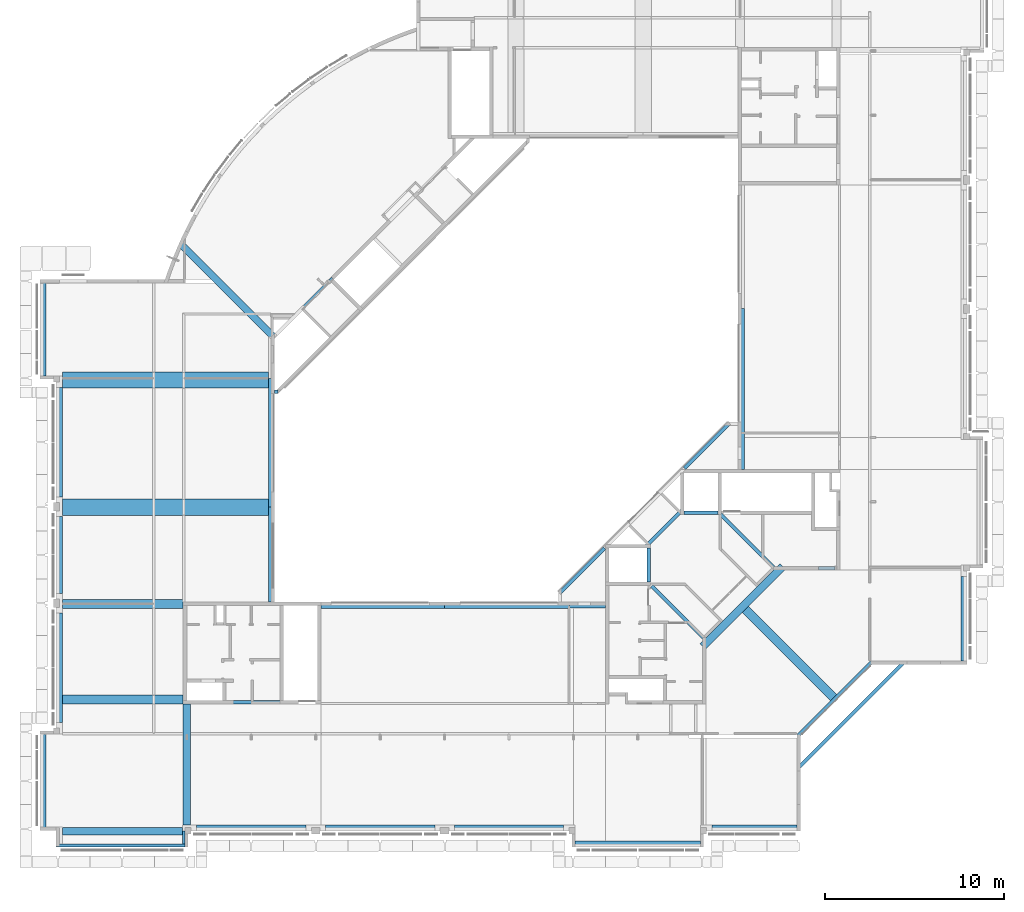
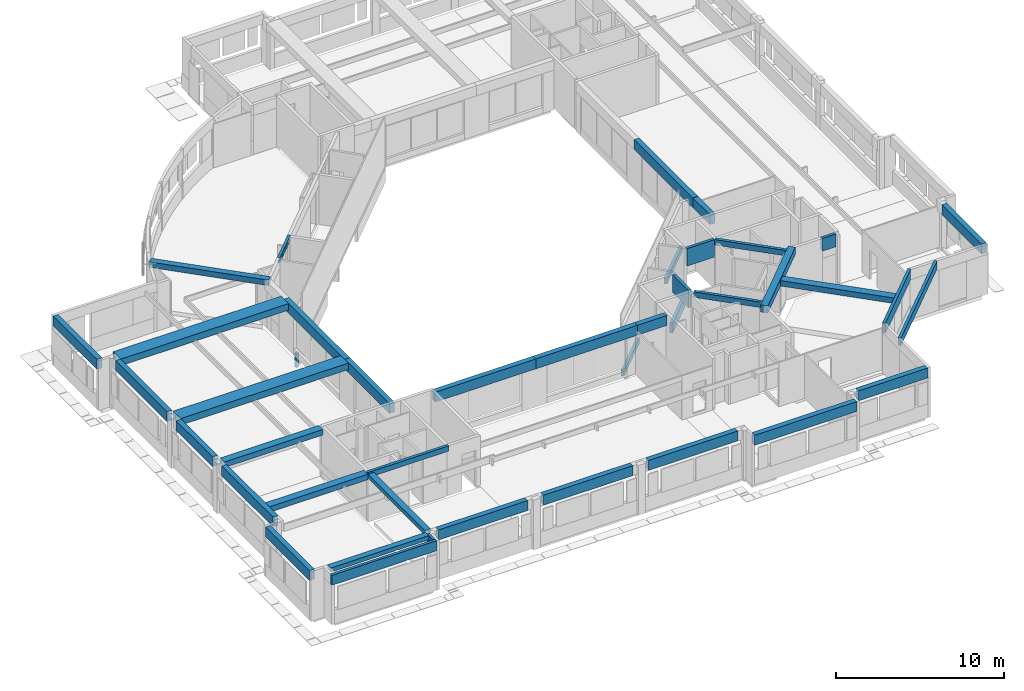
# One storey, part 2 of 26: 42 beams, 1 element without a shape of its own.
"""IFC4X3_ADD2 building model written with IfcOpenShell, lengths in millimetres."""

from ifc_helpers import new_model, si_unit, direction, frame, frame_2d, origin_with_axes, origin_2d_with_axis, place, context, subcontext, project, spatial, polyline, rectangle, outline, extrude, source, transform, mapped, material, type_object, type_shapes, element, aggregate, save


model = new_model("IFC4X3_ADD2")

# Units and contexts
model_context = context("Model", 3, precision=1e-05, world=origin_with_axes(), true_north=direction((0.0, 1.0)))
body_context = subcontext(model_context, "Body", "Model", "MODEL_VIEW")
ifc_project = project(units=[si_unit("LENGTHUNIT", "METRE", prefix="MILLI"), si_unit("AREAUNIT", "SQUARE_METRE"), si_unit("VOLUMEUNIT", "CUBIC_METRE"), si_unit("PLANEANGLEUNIT", "RADIAN"), si_unit("TIMEUNIT", "SECOND"), si_unit("MASSUNIT", "GRAM")], contexts=[model_context])

# Site, building, storey
site_placement = place(None, origin_with_axes())
site = spatial("IfcSite", under=ifc_project, at=site_placement, Name="Site", CompositionType="ELEMENT")
building_placement = place(site_placement, origin_with_axes())
building = spatial("IfcBuilding", under=site, at=building_placement, Name="IFC Building Story")
storey_placement = place(building_placement, frame((0.0, 0.0, 7200.0), z_axis=(0.0, 0.0, 1.0), x_axis=(1.0, 0.0, 0.0)))
storey = spatial("IfcBuildingStorey", under=building, at=storey_placement, Name="020", Elevation=7200.0)

# Beams
ifc_material_1 = material(Name="BB_Beton_Bestaand")
beam_type_1 = type_object("IfcBeamType", Name="BB_XX_Betonbalk_ rechthoekig_ center-center_SFB_340 x 720 mm33", PredefinedType="NOTDEFINED")
shared_shape_1 = source(origin_with_axes(), body_context, "Body", "SweptSolid", [
    extrude(rectangle(XDim=5299.99593411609, YDim=340.0, at=origin_2d_with_axis()), frame((-5.002220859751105e-12, 0.0, -360.0), z_axis=(0.0, 0.0, 1.0), x_axis=(1.0, 0.0, 0.0)), (0.0, 0.0, 1.0), 720.0),
])
type_shapes(beam_type_1, [shared_shape_1])
beam_1_placement = place(storey_placement, frame((-38775.0, 15350.0020329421, 3040.0), z_axis=(0.0, 0.0, 1.0), x_axis=(0.0, 1.0, 0.0)))
element("IfcBeam", 1, at=beam_1_placement, inside=storey, type_object=beam_type_1, material=ifc_material_1, Name="BB_XX_Betonbalk, rechthoekig, center-center_SFB:340 x 720 mm", ObjectType="340 x 720 mm", PredefinedType="BEAM", context=body_context, shape_type="MappedRepresentation", body=[
    mapped(shared_shape_1, transform((0.0, 0.0, 0.0))),
])
beam_type_2 = type_object("IfcBeamType", Name="BB_XX_Betonbalk_ rechthoekig_ center-center_SFB_340 x 720 mm35", PredefinedType="NOTDEFINED")
shared_shape_2 = source(origin_with_axes(), body_context, "Body", "SweptSolid", [
    extrude(rectangle(XDim=7200.0, YDim=340.0, at=origin_2d_with_axis()), frame((-5.002220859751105e-12, 0.0, -360.0), z_axis=(0.0, 0.0, 1.0), x_axis=(1.0, 0.0, 0.0)), (0.0, 0.0, 1.0), 720.0),
])
type_shapes(beam_type_2, [shared_shape_2])
beam_2_placement = place(storey_placement, frame((-38775.0, 21600.0, 3040.0), z_axis=(0.0, 0.0, 1.0), x_axis=(0.0, 1.0, 0.0)))
element("IfcBeam", 2, at=beam_2_placement, inside=storey, type_object=beam_type_2, material=ifc_material_1, Name="BB_XX_Betonbalk, rechthoekig, center-center_SFB:340 x 720 mm", ObjectType="340 x 720 mm", PredefinedType="BEAM", context=body_context, shape_type="MappedRepresentation", body=[
    mapped(shared_shape_2, transform((0.0, 0.0, 0.0))),
])
beam_type_3 = type_object("IfcBeamType", Name="BB_XX_Betonbalk_ rechthoekig_ center-center_SFB_340 x 720 mm55", PredefinedType="NOTDEFINED")
shared_shape_3 = source(origin_with_axes(), body_context, "Body", "SweptSolid", [
    extrude(rectangle(XDim=6900.00000000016, YDim=340.0, at=origin_2d_with_axis()), frame((-5.002220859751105e-12, 0.0, -360.0), z_axis=(0.0, 0.0, 1.0), x_axis=(1.0, 0.0, 0.0)), (0.0, 0.0, 1.0), 720.0),
])
type_shapes(beam_type_3, [shared_shape_3])
beam_3_placement = place(storey_placement, frame((-32550.0, 12525.004065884, 3040.0), z_axis=(0.0, 0.0, 1.0), x_axis=(1.0, 0.0, 0.0)))
element("IfcBeam", 3, at=beam_3_placement, inside=storey, type_object=beam_type_3, material=ifc_material_1, Name="BB_XX_Betonbalk, rechthoekig, center-center_SFB:340 x 720 mm", ObjectType="340 x 720 mm", PredefinedType="BEAM", context=body_context, shape_type="MappedRepresentation", body=[
    mapped(shared_shape_3, transform((0.0, 0.0, 0.0))),
])
beam_type_4 = type_object("IfcBeamType", Name="BB_XX_Betonbalk_ rechthoekig_ center-center_SFB_200 x 1270 mm3", PredefinedType="NOTDEFINED")
shared_shape_4 = source(origin_with_axes(), body_context, "Body", "SweptSolid", [
    extrude(rectangle(XDim=1900.0, YDim=200.0, at=origin_2d_with_axis()), frame((0.0, 0.0, -635.0), z_axis=(0.0, 0.0, 1.0), x_axis=(1.0, 0.0, 0.0)), (0.0, 0.0, 1.0), 1270.0),
])
type_shapes(beam_type_4, [shared_shape_4])
beam_4_placement = place(storey_placement, frame((-14765.0, 17700.0, 2885.0), z_axis=(0.0, 0.0, 1.0), x_axis=(-1.0, 0.0, 0.0)))
element("IfcBeam", 4, at=beam_4_placement, inside=storey, type_object=beam_type_4, material=ifc_material_1, Name="BB_XX_Betonbalk, rechthoekig, center-center_SFB:200 x 1270 mm", ObjectType="200 x 1270 mm", PredefinedType="BEAM", context=body_context, shape_type="MappedRepresentation", body=[
    mapped(shared_shape_4, transform((0.0, 0.0, 0.0))),
])
beam_type_5 = type_object("IfcBeamType", Name="BB_XX_Betonbalk_ rechthoekig_ center-center_SFB_200 x 1270 mm5", PredefinedType="NOTDEFINED")
shared_shape_5 = source(origin_with_axes(), body_context, "Body", "SweptSolid", [
    extrude(rectangle(XDim=1900.00000000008, YDim=200.0, at=origin_2d_with_axis()), frame((0.0, 0.0, -635.0), z_axis=(0.0, 0.0, 1.0), x_axis=(1.0, 0.0, 0.0)), (0.0, 0.0, 1.0), 1270.0),
])
type_shapes(beam_type_5, [shared_shape_5])
beam_5_placement = place(storey_placement, frame((-17700.0, 14765.0, 2885.0), z_axis=(0.0, 0.0, 1.0), x_axis=(0.0, -1.0, 0.0)))
element("IfcBeam", 5, at=beam_5_placement, inside=storey, type_object=beam_type_5, material=ifc_material_1, Name="BB_XX_Betonbalk, rechthoekig, center-center_SFB:200 x 1270 mm", ObjectType="200 x 1270 mm", PredefinedType="BEAM", context=body_context, shape_type="MappedRepresentation", body=[
    mapped(shared_shape_5, transform((0.0, 0.0, 0.0))),
])
beam_type_6 = type_object("IfcBeamType", Name="BB_XX_Betonbalk_ rechthoekig_ center-center_SFB_400 x 300 mm", PredefinedType="NOTDEFINED")
shared_shape_6 = source(origin_with_axes(), body_context, "Body", "SweptSolid", [
    extrude(rectangle(XDim=6755.00000000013, YDim=400.0, at=origin_2d_with_axis()), frame((5.002220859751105e-12, 0.0, -150.0), z_axis=(0.0, 0.0, 1.0), x_axis=(1.0, 0.0, 0.0)), (0.0, 0.0, 1.0), 300.0),
])
type_shapes(beam_type_6, [shared_shape_6])
beam_6_placement = place(storey_placement, frame((-43500.0, 3622.50000000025, 3250.0), z_axis=(0.0, 0.0, 1.0), x_axis=(0.0, 1.0, 0.0)))
element("IfcBeam", 6, at=beam_6_placement, inside=storey, type_object=beam_type_6, material=ifc_material_1, Name="BB_XX_Betonbalk, rechthoekig, center-center_SFB:400 x 300 mm", ObjectType="300 mm x 400 mm", PredefinedType="BEAM", context=body_context, shape_type="MappedRepresentation", body=[
    mapped(shared_shape_6, transform((0.0, 0.0, 0.0))),
])
beam_type_7 = type_object("IfcBeamType", Name="BB_XX_Betonbalk_ rechthoekig_ center-center_SFB_340 x 720 mm73", PredefinedType="NOTDEFINED")
shared_shape_7 = source(origin_with_axes(), body_context, "Body", "SweptSolid", [
    extrude(rectangle(XDim=6109.99999999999, YDim=340.0, at=origin_2d_with_axis()), frame((-5.002220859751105e-12, 0.0, -360.0), z_axis=(0.0, 0.0, 1.0), x_axis=(1.0, 0.0, 0.0)), (0.0, 0.0, 1.0), 720.0),
])
type_shapes(beam_type_7, [shared_shape_7])
for number, where, z_axis, x_axis in (
    (7, (-39900.0, 75.0, 3040.0), (0.0, 0.0, 1.0), (-1.0, 0.0, 0.0)),
    (8, (-32700.0, 75.0, 3040.0), (0.0, 0.0, 1.0), (-1.0, 0.0, 0.0)),
    (9, (-25500.0, 75.0, 3040.0), (0.0, 0.0, 1.0), (-1.0, 0.0, 0.0)),
):
    element("IfcBeam", number, at=place(storey_placement, frame(where, z_axis=z_axis, x_axis=x_axis)), inside=storey, type_object=beam_type_7, material=ifc_material_1, Name="BB_XX_Betonbalk, rechthoekig, center-center_SFB:340 x 720 mm", ObjectType="340 x 720 mm", PredefinedType="BEAM", context=body_context, shape_type="MappedRepresentation", body=[
        mapped(shared_shape_7, transform((0.0, 0.0, 0.0))),
    ])

# Assembly, beam
assembly_placement = place(storey_placement, frame((0.0, 0.0, -7200.0), z_axis=(0.0, 0.0, 1.0), x_axis=(1.0, 0.0, 0.0)))
assembly = element("IfcElementAssembly", 10, at=assembly_placement, inside=storey, Name="Structural Connections Assembly:IPE360 + plaat", ObjectType="Structural Connections Assembly:IPE360 + plaat", AssemblyPlace="NOTDEFINED", PredefinedType="USERDEFINED")
ifc_material_2 = material(Name="Metal - Steel - 345 MPa")
beam_type_8 = type_object("IfcBeamType", Name="IPE-Beams_IPE360", PredefinedType="NOTDEFINED")
shared_shape_8 = source(origin_with_axes(), body_context, "Body", "SweptSolid", [
    extrude(outline(polyline([(179.9999999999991, 85.0), (179.9999999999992, -84.9999999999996), (167.3000000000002, -84.9999999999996), (167.3000000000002, -4.0), (-167.2999999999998, -4.0), (-167.2999999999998, -85.0), (-179.9999999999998, -85.0), (-179.9999999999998, 85.0), (-167.2999999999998, 85.0), (-167.2999999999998, 3.999999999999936), (167.3000000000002, 3.999999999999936), (167.3000000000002, 85.0), (179.9999999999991, 85.0)])), frame((-925.267324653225, 0.0, 0.0), z_axis=(1.0, 0.0, 0.0), x_axis=(0.0, 0.0, 1.0)), (0.0, 0.0, 1.0), 2419.99999999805),
])
type_shapes(beam_type_8, [shared_shape_8])
beam_7_placement = place(assembly_placement, frame((-36018.9610306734, 30135.4545570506, 10430.0), z_axis=(0.0, 0.0, 1.0), x_axis=(-0.7071067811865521, -0.707106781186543, 0.0)))
beam_7 = element("IfcBeam", 11, at=beam_7_placement, type_object=beam_type_8, material=ifc_material_2, Name="IPE-Beams:IPE360", ObjectType="IPE360", PredefinedType="BEAM", context=body_context, shape_type="MappedRepresentation", body=[
    mapped(shared_shape_8, transform((0.0, 0.0, 0.0))),
])
aggregate(assembly, [beam_7])

# Beams
beam_type_9 = type_object("IfcBeamType", Name="BB_XX_Betonbalk_ rechthoekig_ center-center_SFB_190 x 720 mm9", PredefinedType="NOTDEFINED")
shared_shape_9 = source(origin_with_axes(), body_context, "Body", "SweptSolid", [
    extrude(rectangle(XDim=7200.00000000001, YDim=190.0, at=origin_2d_with_axis()), frame((-5.002220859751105e-12, 0.0, -360.0), z_axis=(0.0, 0.0, 1.0), x_axis=(1.0, 0.0, 0.0)), (0.0, 0.0, 1.0), 720.0),
])
type_shapes(beam_type_9, [shared_shape_9])
beam_8_placement = place(storey_placement, frame((-47195.0, -900.0, 3040.0), z_axis=(0.0, 0.0, 1.0), x_axis=(-1.0, 0.0, 0.0)))
element("IfcBeam", 12, at=beam_8_placement, inside=storey, type_object=beam_type_9, material=ifc_material_1, Name="BB_XX_Betonbalk, rechthoekig, center-center_SFB:190 x 720 mm", ObjectType="190 x 720 mm", PredefinedType="BEAM", context=body_context, shape_type="MappedRepresentation", body=[
    mapped(shared_shape_9, transform((0.0, 0.0, 0.0))),
])
beam_type_10 = type_object("IfcBeamType", Name="BB_XX_Betonbalk_ rechthoekig_ center-center_SFB_340 x 720 mm93", PredefinedType="NOTDEFINED")
shared_shape_10 = source(origin_with_axes(), body_context, "Body", "SweptSolid", [
    extrude(rectangle(XDim=7010.0000000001, YDim=340.0, at=origin_2d_with_axis()), frame((-5.002220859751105e-12, 0.0, -360.0), z_axis=(0.0, 0.0, 1.0), x_axis=(1.0, 0.0, 0.0)), (0.0, 0.0, 1.0), 720.0),
])
type_shapes(beam_type_10, [shared_shape_10])
beam_9_placement = place(storey_placement, frame((-18300.0, -825.0, 3040.0), z_axis=(0.0, 0.0, 1.0), x_axis=(-1.0, 0.0, 0.0)))
element("IfcBeam", 13, at=beam_9_placement, inside=storey, type_object=beam_type_10, material=ifc_material_1, Name="BB_XX_Betonbalk, rechthoekig, center-center_SFB:340 x 720 mm", ObjectType="340 x 720 mm", PredefinedType="BEAM", context=body_context, shape_type="MappedRepresentation", body=[
    mapped(shared_shape_10, transform((0.0, 0.0, 0.0))),
])
beam_type_11 = type_object("IfcBeamType", Name="BB_XX_Betonbalk_ rechthoekig_ center-center_SFB_340 x 720 mm95", PredefinedType="NOTDEFINED")
shared_shape_11 = source(origin_with_axes(), body_context, "Body", "SweptSolid", [
    extrude(rectangle(XDim=4740.00000000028, YDim=340.0, at=origin_2d_with_axis()), frame((1.450644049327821e-10, 0.0, -360.0), z_axis=(0.0, 0.0, 1.0), x_axis=(1.0, 0.0, 0.0)), (0.0, 0.0, 1.0), 720.0),
])
type_shapes(beam_type_11, [shared_shape_11])
beam_10_placement = place(storey_placement, frame((-11785.0, 75.0, 3040.0), z_axis=(0.0, 0.0, 1.0), x_axis=(-1.0, 0.0, 0.0)))
element("IfcBeam", 14, at=beam_10_placement, inside=storey, type_object=beam_type_11, material=ifc_material_1, Name="BB_XX_Betonbalk, rechthoekig, center-center_SFB:340 x 720 mm", ObjectType="340 x 720 mm", PredefinedType="BEAM", context=body_context, shape_type="MappedRepresentation", body=[
    mapped(shared_shape_11, transform((0.0, 0.0, 0.0))),
])
beam_type_12 = type_object("IfcBeamType", Name="BB_XX_Betonbalk_ rechthoekig_ center-center_SFB_340 x 720 mm99", PredefinedType="NOTDEFINED")
shared_shape_12 = source(origin_with_axes(), body_context, "Body", "SweptSolid", [
    extrude(rectangle(XDim=5209.99999999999, YDim=340.0, at=origin_2d_with_axis()), frame((-5.002220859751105e-12, 0.0, -360.0), z_axis=(0.0, 0.0, 1.0), x_axis=(1.0, 0.0, 0.0)), (0.0, 0.0, 1.0), 720.0),
])
type_shapes(beam_type_12, [shared_shape_12])
beam_11_placement = place(storey_placement, frame((-51525.0, 2700.0, 3040.0), z_axis=(0.0, 0.0, 1.0), x_axis=(0.0, 1.0, 0.0)))
element("IfcBeam", 15, at=beam_11_placement, inside=storey, type_object=beam_type_12, material=ifc_material_1, Name="BB_XX_Betonbalk, rechthoekig, center-center_SFB:340 x 720 mm", ObjectType="340 x 720 mm", PredefinedType="BEAM", context=body_context, shape_type="MappedRepresentation", body=[
    mapped(shared_shape_12, transform((0.0, 0.0, 0.0))),
])
beam_type_13 = type_object("IfcBeamType", Name="BB_XX_Betonbalk_ rechthoekig_ center-center_SFB_340 x 720 mm101", PredefinedType="NOTDEFINED")
shared_shape_13 = source(origin_with_axes(), body_context, "Body", "SweptSolid", [
    extrude(rectangle(XDim=6109.99999999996, YDim=340.0, at=origin_2d_with_axis()), frame((-5.002220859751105e-12, 0.0, -360.0), z_axis=(0.0, 0.0, 1.0), x_axis=(1.0, 0.0, 0.0)), (0.0, 0.0, 1.0), 720.0),
])
type_shapes(beam_type_13, [shared_shape_13])
beam_12_placement = place(storey_placement, frame((-50625.0, 9030.0, 3040.0), z_axis=(0.0, 0.0, 1.0), x_axis=(0.0, 1.0, 0.0)))
element("IfcBeam", 16, at=beam_12_placement, inside=storey, type_object=beam_type_13, material=ifc_material_1, Name="BB_XX_Betonbalk, rechthoekig, center-center_SFB:340 x 720 mm", ObjectType="340 x 720 mm", PredefinedType="BEAM", context=body_context, shape_type="MappedRepresentation", body=[
    mapped(shared_shape_13, transform((0.0, 0.0, 0.0))),
])
beam_type_14 = type_object("IfcBeamType", Name="BB_XX_Betonbalk_ rechthoekig_ center-center_SFB_340 x 720 mm105", PredefinedType="NOTDEFINED")
shared_shape_14 = source(origin_with_axes(), body_context, "Body", "SweptSolid", [
    extrude(rectangle(XDim=4309.99999999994, YDim=340.0, at=origin_2d_with_axis()), frame((-5.002220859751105e-12, 0.0, -360.0), z_axis=(0.0, 0.0, 1.0), x_axis=(1.0, 0.0, 0.0)), (0.0, 0.0, 1.0), 720.0),
])
type_shapes(beam_type_14, [shared_shape_14])
beam_13_placement = place(storey_placement, frame((-50625.0, 15330.0, 3040.0), z_axis=(0.0, 0.0, 1.0), x_axis=(0.0, 1.0, 0.0)))
element("IfcBeam", 17, at=beam_13_placement, inside=storey, type_object=beam_type_14, material=ifc_material_1, Name="BB_XX_Betonbalk, rechthoekig, center-center_SFB:340 x 720 mm", ObjectType="340 x 720 mm", PredefinedType="BEAM", context=body_context, shape_type="MappedRepresentation", body=[
    mapped(shared_shape_14, transform((0.0, 0.0, 0.0))),
])
beam_type_15 = type_object("IfcBeamType", Name="BB_XX_Betonbalk_ rechthoekig_ center-center_SFB_340 x 720 mm139", PredefinedType="NOTDEFINED")
shared_shape_15 = source(origin_with_axes(), body_context, "Body", "SweptSolid", [
    extrude(rectangle(XDim=6979.9999999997, YDim=340.0, at=origin_2d_with_axis()), frame((-1.450644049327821e-10, 0.0, -360.0), z_axis=(0.0, 0.0, 1.0), x_axis=(1.0, 0.0, 0.0)), (0.0, 0.0, 1.0), 719.9999999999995),
])
type_shapes(beam_type_15, [shared_shape_15])
beam_14_placement = place(storey_placement, frame((-25610.0, 12525.004065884, 3040.0), z_axis=(0.0, 0.0, 1.0), x_axis=(1.0, 0.0, 0.0)))
element("IfcBeam", 18, at=beam_14_placement, inside=storey, type_object=beam_type_15, material=ifc_material_1, Name="BB_XX_Betonbalk, rechthoekig, center-center_SFB:340 x 720 mm", ObjectType="340 x 720 mm", PredefinedType="BEAM", context=body_context, shape_type="MappedRepresentation", body=[
    mapped(shared_shape_15, transform((0.0, 0.0, 0.0))),
])
beam_type_16 = type_object("IfcBeamType", Name="BB_XX_Betonbalk_ rechthoekig_ center-center_SFB_340 x 720 mm141", PredefinedType="NOTDEFINED")
shared_shape_16 = source(origin_with_axes(), body_context, "Body", "SweptSolid", [
    extrude(rectangle(XDim=2020.00000000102, YDim=340.0, at=origin_2d_with_axis()), frame((5.099991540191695e-10, 0.0, -360.0), z_axis=(0.0, 0.0, 1.0), x_axis=(1.0, 0.0, 0.0)), (0.0, 0.0, 1.0), 720.0),
])
type_shapes(beam_type_16, [shared_shape_16])
beam_15_placement = place(storey_placement, frame((-21110.0, 12530.004065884, 3040.0), z_axis=(0.0, 0.0, 1.0), x_axis=(1.0, 0.0, 0.0)))
element("IfcBeam", 19, at=beam_15_placement, inside=storey, type_object=beam_type_16, material=ifc_material_1, Name="BB_XX_Betonbalk, rechthoekig, center-center_SFB:340 x 720 mm", ObjectType="340 x 720 mm", PredefinedType="BEAM", context=body_context, shape_type="MappedRepresentation", body=[
    mapped(shared_shape_16, transform((0.0, 0.0, 0.0))),
])
beam_type_17 = type_object("IfcBeamType", Name="BB_XX_Betonbalk_ rechthoekig_ center-center_SFB_500 x 400 mm", PredefinedType="NOTDEFINED")
shared_shape_17 = source(origin_with_axes(), body_context, "Body", "SweptSolid", [
    extrude(rectangle(XDim=6972.00449947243, YDim=500.0, at=origin_2d_with_axis()), frame((0.0, 0.0, -200.0), z_axis=(0.0, 0.0, 1.0), x_axis=(1.0, 0.0, 0.0)), (0.0, 0.0, 1.0), 400.0),
])
type_shapes(beam_type_17, [shared_shape_17])
beam_16_placement = place(storey_placement, frame((-9824.32611844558, 9824.32611844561, 3200.0), z_axis=(0.0, 0.0, 1.0), x_axis=(0.7071067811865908, -0.7071067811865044, 0.0)))
element("IfcBeam", 20, at=beam_16_placement, inside=storey, type_object=beam_type_17, material=ifc_material_1, Name="BB_XX_Betonbalk, rechthoekig, center-center_SFB:500 x 400 mm", ObjectType="400 x 500 mm", PredefinedType="BEAM", context=body_context, shape_type="MappedRepresentation", body=[
    mapped(shared_shape_17, transform((0.0, 0.0, 0.0))),
])
beam_type_18 = type_object("IfcBeamType", Name="BB_XX_Betonbalk_ rechthoekig_ center-center_SFB_200 x 720 mm27", PredefinedType="NOTDEFINED")
shared_shape_18 = source(origin_with_axes(), body_context, "Body", "SweptSolid", [
    extrude(rectangle(XDim=2742.89460004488, YDim=200.0, at=origin_2d_with_axis()), frame((26.17021162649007, 0.0, -360.0), z_axis=(0.0, 0.0, 1.0), x_axis=(1.0, 0.0, 0.0)), (0.0, 0.0, 1.0), 720.0),
])
type_shapes(beam_type_18, [shared_shape_18])
beam_17_placement = place(storey_placement, frame((-16847.5270219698, 16815.9487940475, -440.0), z_axis=(0.0, 0.0, 1.0), x_axis=(0.7069491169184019, 0.7072644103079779, 0.0)))
element("IfcBeam", 21, at=beam_17_placement, inside=storey, type_object=beam_type_18, material=ifc_material_1, Name="BB_XX_Betonbalk, rechthoekig, center-center_SFB:200 x 720 mm", ObjectType="200 x 720 mm", PredefinedType="BEAM", context=body_context, shape_type="MappedRepresentation", body=[
    mapped(shared_shape_18, transform((0.0, 0.0, 0.0))),
])
beam_type_19 = type_object("IfcBeamType", Name="BB_XX_Betonbalk_ rechthoekig_ center-center_SFB_340 x 720 mm167", PredefinedType="NOTDEFINED")
shared_shape_19 = source(origin_with_axes(), body_context, "Body", "SweptSolid", [
    extrude(rectangle(XDim=6109.999999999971, YDim=340.0, at=frame_2d((0.0, 0.0), x_axis=(0.0, 1.0))), frame((-50624.99999999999, 21629.99999999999, 9880.0), z_axis=(0.0, 0.0, 1.0), x_axis=(1.0, 0.0, 0.0)), (0.0, 0.0, 1.0), 720.0),
])
type_shapes(beam_type_19, [shared_shape_19])
beam_18_placement = place(storey_placement, frame((0.0, 0.0, -7200.0), z_axis=(0.0, 0.0, 1.0), x_axis=(1.0, 0.0, 0.0)))
element("IfcBeam", 22, at=beam_18_placement, inside=storey, type_object=beam_type_19, material=ifc_material_1, Name="BB_XX_Betonbalk, rechthoekig, center-center_SFB:340 x 720 mm", ObjectType="340 x 720 mm", PredefinedType="BEAM", context=body_context, shape_type="MappedRepresentation", body=[
    mapped(shared_shape_19, transform((0.0, 0.0, 0.0))),
])
beam_type_20 = type_object("IfcBeamType", Name="BB_XX_Betonbalk_ rechthoekig_ center-center_SFB_340 x 720 mm175", PredefinedType="NOTDEFINED")
shared_shape_20 = source(origin_with_axes(), body_context, "Body", "SweptSolid", [
    extrude(rectangle(XDim=5210.00000000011, YDim=340.0, at=origin_2d_with_axis()), frame((-14.93490290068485, 0.0, -360.0), z_axis=(0.0, 0.0, 1.0), x_axis=(1.0, 0.0, 0.0)), (0.0, 0.0, 1.0), 720.0),
])
type_shapes(beam_type_20, [shared_shape_20])
beam_19_placement = place(storey_placement, frame((-51525.0, 27944.9349029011, 3040.0), z_axis=(0.0, 0.0, 1.0), x_axis=(0.0, 1.0, 0.0)))
element("IfcBeam", 23, at=beam_19_placement, inside=storey, type_object=beam_type_20, material=ifc_material_1, Name="BB_XX_Betonbalk, rechthoekig, center-center_SFB:340 x 720 mm", ObjectType="340 x 720 mm", PredefinedType="BEAM", context=body_context, shape_type="MappedRepresentation", body=[
    mapped(shared_shape_20, transform((0.0, 0.0, 0.0))),
])
beam_type_21 = type_object("IfcBeamType", Name="BB_XX_Betonbalk_ rechthoekig_ center-center_SFB_340 x 720 mm177", PredefinedType="NOTDEFINED")
shared_shape_21 = source(origin_with_axes(), body_context, "Body", "SweptSolid", [
    extrude(rectangle(XDim=4720.00000000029, YDim=340.0, at=origin_2d_with_axis()), frame((-9.999999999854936, 0.0, -360.0), z_axis=(0.0, 0.0, 1.0), x_axis=(1.0, 0.0, 0.0)), (0.0, 0.0, 1.0), 720.0),
])
type_shapes(beam_type_21, [shared_shape_21])
beam_20_placement = place(storey_placement, frame((-75.0, 11765.0, 3040.0), z_axis=(0.0, 0.0, 1.0), x_axis=(0.0, -1.0, 0.0)))
element("IfcBeam", 24, at=beam_20_placement, inside=storey, type_object=beam_type_21, material=ifc_material_1, Name="BB_XX_Betonbalk, rechthoekig, center-center_SFB:340 x 720 mm", ObjectType="340 x 720 mm", PredefinedType="BEAM", context=body_context, shape_type="MappedRepresentation", body=[
    mapped(shared_shape_21, transform((0.0, 0.0, 0.0))),
])
beam_type_22 = type_object("IfcBeamType", Name="BB_XX_Betonbalk_ rechthoekig_ center-center_SFB_340 x 720 mm191", PredefinedType="NOTDEFINED")
shared_shape_22 = source(origin_with_axes(), body_context, "Body", "SweptSolid", [
    extrude(rectangle(XDim=2020.000000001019, YDim=340.0000000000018, at=frame_2d((0.0, 0.0), x_axis=(0.0, 1.0))), frame((-12525.0, 21110.00000000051, 9880.0), z_axis=(0.0, 0.0, 1.0), x_axis=(1.0, 0.0, 0.0)), (0.0, 0.0, 1.0), 720.0),
])
type_shapes(beam_type_22, [shared_shape_22])
beam_21_placement = place(storey_placement, frame((0.0, 0.0, -7200.0), z_axis=(0.0, 0.0, 1.0), x_axis=(1.0, 0.0, 0.0)))
element("IfcBeam", 25, at=beam_21_placement, inside=storey, type_object=beam_type_22, material=ifc_material_1, Name="BB_XX_Betonbalk, rechthoekig, center-center_SFB:340 x 720 mm", ObjectType="340 x 720 mm", PredefinedType="BEAM", context=body_context, shape_type="MappedRepresentation", body=[
    mapped(shared_shape_22, transform((0.0, 0.0, 0.0))),
])
beam_type_23 = type_object("IfcBeamType", Name="BB_XX_Betonbalk_ rechthoekig_ center-center_SFB_340 x 720 mm193", PredefinedType="NOTDEFINED")
shared_shape_23 = source(origin_with_axes(), body_context, "Body", "SweptSolid", [
    extrude(rectangle(XDim=6979.999999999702, YDim=340.0, at=frame_2d((0.0, 0.0), x_axis=(0.0, 1.0))), frame((-12525.0, 25609.99999999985, 9880.0), z_axis=(0.0, 0.0, 1.0), x_axis=(1.0, 0.0, 0.0)), (0.0, 0.0, 1.0), 720.0),
])
type_shapes(beam_type_23, [shared_shape_23])
beam_22_placement = place(storey_placement, frame((0.0, 0.0, -7200.0), z_axis=(0.0, 0.0, 1.0), x_axis=(1.0, 0.0, 0.0)))
element("IfcBeam", 26, at=beam_22_placement, inside=storey, type_object=beam_type_23, material=ifc_material_1, Name="BB_XX_Betonbalk, rechthoekig, center-center_SFB:340 x 720 mm", ObjectType="340 x 720 mm", PredefinedType="BEAM", context=body_context, shape_type="MappedRepresentation", body=[
    mapped(shared_shape_23, transform((0.0, 0.0, 0.0))),
])
beam_type_24 = type_object("IfcBeamType", Name="BB_XX_Betonbalk_ rechthoekig_ center-center_SFB_150 x 720 mm9", PredefinedType="NOTDEFINED")
shared_shape_24 = source(origin_with_axes(), body_context, "Body", "SweptSolid", [
    extrude(rectangle(XDim=709.999999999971, YDim=150.0, at=frame_2d((0.0, 0.0), x_axis=(0.0, 1.0))), frame((-43670.0, -449.9999999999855, 9880.0), z_axis=(0.0, 0.0, 1.0), x_axis=(1.0, 0.0, 0.0)), (0.0, 0.0, 1.0), 720.0),
])
type_shapes(beam_type_24, [shared_shape_24])
beam_23_placement = place(storey_placement, frame((0.0, 0.0, -7200.0), z_axis=(0.0, 0.0, 1.0), x_axis=(1.0, 0.0, 0.0)))
element("IfcBeam", 27, at=beam_23_placement, inside=storey, type_object=beam_type_24, material=ifc_material_1, Name="BB_XX_Betonbalk, rechthoekig, center-center_SFB:150 x 720 mm", ObjectType="150 x 720 mm", PredefinedType="BEAM", context=body_context, shape_type="MappedRepresentation", body=[
    mapped(shared_shape_24, transform((0.0, 0.0, 0.0))),
])
beam_type_25 = type_object("IfcBeamType", Name="BB_XX_Betonbalk_ rechthoekig_ center-center_SFB_400 x 300 mm1", PredefinedType="NOTDEFINED")
shared_shape_25 = source(origin_with_axes(), body_context, "Body", "SweptSolid", [
    extrude(rectangle(XDim=6710.0, YDim=400.0, at=origin_2d_with_axis()), frame((5.002220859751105e-12, 0.0, -150.0), z_axis=(0.0, 0.0, 1.0), x_axis=(1.0, 0.0, 0.0)), (0.0, 0.0, 1.0), 300.0),
])
type_shapes(beam_type_25, [shared_shape_25])
beam_24_placement = place(storey_placement, frame((-47100.0, -105.0, 3250.0), z_axis=(0.0, 0.0, 1.0), x_axis=(1.0, 0.0, 0.0)))
element("IfcBeam", 28, at=beam_24_placement, inside=storey, type_object=beam_type_25, material=ifc_material_1, Name="BB_XX_Betonbalk, rechthoekig, center-center_SFB:400 x 300 mm", ObjectType="300 mm x 400 mm", PredefinedType="BEAM", context=body_context, shape_type="MappedRepresentation", body=[
    mapped(shared_shape_25, transform((0.0, 0.0, 0.0))),
])
beam_type_26 = type_object("IfcBeamType", Name="BB_XX_Betonbalk_ rechthoekig_ center-center_SFB_500 x 400 mm1", PredefinedType="NOTDEFINED")
shared_shape_26 = source(origin_with_axes(), body_context, "Body", "SweptSolid", [
    extrude(rectangle(XDim=6754.99999999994, YDim=500.0, at=origin_2d_with_axis()), frame((0.0, 0.0, -200.0), z_axis=(0.0, 0.0, 1.0), x_axis=(1.0, 0.0, 0.0)), (0.0, 0.0, 1.0), 400.0),
])
type_shapes(beam_type_26, [shared_shape_26])
for number, where, z_axis, x_axis in (
    (29, (-47077.4999999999, 7250.0, 3200.0), (0.0, 0.0, 1.0), (-1.0, 0.0, 0.0)),
    (30, (-47077.4999999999, 12600.0, 3200.0), (0.0, 0.0, 1.0), (-1.0, 0.0, 0.0)),
):
    element("IfcBeam", number, at=place(storey_placement, frame(where, z_axis=z_axis, x_axis=x_axis)), inside=storey, type_object=beam_type_26, material=ifc_material_1, Name="BB_XX_Betonbalk, rechthoekig, center-center_SFB:500 x 400 mm", ObjectType="400 x 500 mm", PredefinedType="BEAM", context=body_context, shape_type="MappedRepresentation", body=[
        mapped(shared_shape_26, transform((0.0, 0.0, 0.0))),
    ])
beam_type_27 = type_object("IfcBeamType", Name="BB_XX_Betonbalk_ rechthoekig_ center-center_SFB_900 x 480 mm", PredefinedType="NOTDEFINED")
shared_shape_27 = source(origin_with_axes(), body_context, "Body", "SweptSolid", [
    extrude(rectangle(XDim=11514.9999999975, YDim=900.0, at=origin_2d_with_axis()), frame((-1.000444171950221e-11, 0.0, -240.0), z_axis=(0.0, 0.0, 1.0), x_axis=(1.0, 0.0, 0.0)), (0.0, 0.0, 1.0), 480.0),
])
type_shapes(beam_type_27, [shared_shape_27])
beam_25_placement = place(storey_placement, frame((-44697.5000000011, 18000.0, 3160.0), z_axis=(0.0, 0.0, 1.0), x_axis=(1.0, 0.0, 0.0)))
element("IfcBeam", 31, at=beam_25_placement, inside=storey, type_object=beam_type_27, material=ifc_material_1, Name="BB_XX_Betonbalk, rechthoekig, center-center_SFB:900 x 480 mm", ObjectType="900 x 480 mm", PredefinedType="BEAM", context=body_context, shape_type="MappedRepresentation", body=[
    mapped(shared_shape_27, transform((0.0, 0.0, 0.0))),
])
beam_type_28 = type_object("IfcBeamType", Name="BB_XX_Betonbalk_ rechthoekig_ center-center_SFB_900 x 480 mm1", PredefinedType="NOTDEFINED")
shared_shape_28 = source(origin_with_axes(), body_context, "Body", "SweptSolid", [
    extrude(rectangle(XDim=11509.9999999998, YDim=900.0, at=origin_2d_with_axis()), frame((-1.000444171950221e-11, 0.0, -240.0), z_axis=(0.0, 0.0, 1.0), x_axis=(1.0, 0.0, 0.0)), (0.0, 0.0, 1.0), 480.0),
])
type_shapes(beam_type_28, [shared_shape_28])
beam_26_placement = place(storey_placement, frame((-44700.0, 25105.0, 3160.0), z_axis=(0.0, 0.0, 1.0), x_axis=(1.0, 0.0, 0.0)))
element("IfcBeam", 32, at=beam_26_placement, inside=storey, type_object=beam_type_28, material=ifc_material_1, Name="BB_XX_Betonbalk, rechthoekig, center-center_SFB:900 x 480 mm", ObjectType="900 x 480 mm", PredefinedType="BEAM", context=body_context, shape_type="MappedRepresentation", body=[
    mapped(shared_shape_28, transform((0.0, 0.0, 0.0))),
])
beam_type_29 = type_object("IfcBeamType", Name="BB_XX_Betonbalk_ rechthoekig_ center-center_SFB_400 x 400 mm3", PredefinedType="NOTDEFINED")
shared_shape_29 = source(origin_with_axes(), body_context, "Body", "SweptSolid", [
    extrude(rectangle(XDim=7345.0, YDim=400.0000000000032, at=frame_2d((0.0, 0.0), x_axis=(-0.7071067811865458, 0.7071067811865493))), frame((-41222.10957217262, 30082.08437404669, 10200.0), z_axis=(0.0, 0.0, 1.0), x_axis=(1.0, 0.0, 0.0)), (0.0, 0.0, 1.0), 400.0),
])
type_shapes(beam_type_29, [shared_shape_29])
beam_27_placement = place(storey_placement, frame((0.0, 0.0, -7200.0), z_axis=(0.0, 0.0, 1.0), x_axis=(1.0, 0.0, 0.0)))
element("IfcBeam", 33, at=beam_27_placement, inside=storey, type_object=beam_type_29, material=ifc_material_1, Name="BB_XX_Betonbalk, rechthoekig, center-center_SFB:400 x 400 mm", ObjectType="400 x 400 mm", PredefinedType="BEAM", context=body_context, shape_type="MappedRepresentation", body=[
    mapped(shared_shape_29, transform((0.0, 0.0, 0.0))),
])
beam_type_30 = type_object("IfcBeamType", Name="BB_XX_Betonbalk_ rechthoekig_ center-center_SFB_200 x 400 mm3", PredefinedType="NOTDEFINED")
shared_shape_30 = source(origin_with_axes(), body_context, "Body", "SweptSolid", [
    extrude(rectangle(XDim=4184.062043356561, YDim=200.0000000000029, at=frame_2d((0.0, 0.0), x_axis=(-0.7071067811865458, 0.7071067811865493))), frame((-16049.99999999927, 12123.57864376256, 10320.0), z_axis=(0.0, 0.0, 1.0), x_axis=(1.0, 0.0, 0.0)), (0.0, 0.0, 1.0), 400.0),
])
type_shapes(beam_type_30, [shared_shape_30])
beam_28_placement = place(storey_placement, frame((0.0, 0.0, -7200.0), z_axis=(0.0, 0.0, 1.0), x_axis=(1.0, 0.0, 0.0)))
element("IfcBeam", 34, at=beam_28_placement, inside=storey, type_object=beam_type_30, material=ifc_material_1, Name="BB_XX_Betonbalk, rechthoekig, center-center_SFB:200 x 400 mm", ObjectType="200 mm x 400 mm", PredefinedType="BEAM", context=body_context, shape_type="MappedRepresentation", body=[
    mapped(shared_shape_30, transform((0.0, 0.0, 0.0))),
])
beam_type_31 = type_object("IfcBeamType", Name="BB_XX_Betonbalk_ rechthoekig_ center-center_SFB_200 x 400 mm5", PredefinedType="NOTDEFINED")
shared_shape_31 = source(origin_with_axes(), body_context, "Body", "SweptSolid", [
    extrude(rectangle(XDim=4384.062043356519, YDim=200.0, at=frame_2d((0.0, 0.0), x_axis=(-0.7071067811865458, 0.7071067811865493))), frame((-12194.28932188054, 16120.71067811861, 10320.0), z_axis=(0.0, 0.0, 1.0), x_axis=(1.0, 0.0, 0.0)), (0.0, 0.0, 1.0), 400.0),
])
type_shapes(beam_type_31, [shared_shape_31])
beam_29_placement = place(storey_placement, frame((0.0, 0.0, -7200.0), z_axis=(0.0, 0.0, 1.0), x_axis=(1.0, 0.0, 0.0)))
element("IfcBeam", 35, at=beam_29_placement, inside=storey, type_object=beam_type_31, material=ifc_material_1, Name="BB_XX_Betonbalk, rechthoekig, center-center_SFB:200 x 400 mm", ObjectType="200 mm x 400 mm", PredefinedType="BEAM", context=body_context, shape_type="MappedRepresentation", body=[
    mapped(shared_shape_31, transform((0.0, 0.0, 0.0))),
])
beam_type_32 = type_object("IfcBeamType", Name="BB_XX_Betonbalk_ rechthoekig_ center-center_SFB_450 x 520 mm1", PredefinedType="NOTDEFINED")
shared_shape_32 = source(origin_with_axes(), body_context, "Body", "SweptSolid", [
    extrude(rectangle(XDim=6307.881315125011, YDim=449.9999999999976, at=frame_2d((0.0, 0.0), x_axis=(0.7071067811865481, 0.7071067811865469))), frame((-12443.43383217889, 12453.36811628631, 10200.0), z_axis=(0.0, 0.0, 1.0), x_axis=(1.0, 0.0, 0.0)), (0.0, 0.0, 1.0), 519.9999999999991),
])
type_shapes(beam_type_32, [shared_shape_32])
beam_30_placement = place(storey_placement, frame((0.0, 0.0, -7200.0), z_axis=(0.0, 0.0, 1.0), x_axis=(1.0, 0.0, 0.0)))
element("IfcBeam", 36, at=beam_30_placement, inside=storey, type_object=beam_type_32, material=ifc_material_1, Name="BB_XX_Betonbalk, rechthoekig, center-center_SFB:450 x 520 mm", ObjectType="450 x 520 mm", PredefinedType="BEAM", context=body_context, shape_type="MappedRepresentation", body=[
    mapped(shared_shape_32, transform((0.0, 0.0, 0.0))),
])
beam_type_33 = type_object("IfcBeamType", Name="BB_XX_Betonbalk_ rechthoekig_ center-center_SFB_190 x 720 mm29", PredefinedType="NOTDEFINED")
shared_shape_33 = source(origin_with_axes(), body_context, "Body", "SweptSolid", [
    extrude(rectangle(XDim=5833.63094478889, YDim=189.9999999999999, at=frame_2d((0.0, 0.0), x_axis=(0.7071067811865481, 0.7071067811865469))), frame((-7292.175144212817, 7292.175144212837, 9880.0), z_axis=(0.0, 0.0, 1.0), x_axis=(1.0, 0.0, 0.0)), (0.0, 0.0, 1.0), 720.0),
])
type_shapes(beam_type_33, [shared_shape_33])
beam_31_placement = place(storey_placement, frame((0.0, 0.0, -7200.0), z_axis=(0.0, 0.0, 1.0), x_axis=(1.0, 0.0, 0.0)))
element("IfcBeam", 37, at=beam_31_placement, inside=storey, type_object=beam_type_33, material=ifc_material_1, Name="BB_XX_Betonbalk, rechthoekig, center-center_SFB:190 x 720 mm", ObjectType="190 x 720 mm", PredefinedType="BEAM", context=body_context, shape_type="MappedRepresentation", body=[
    mapped(shared_shape_33, transform((0.0, 0.0, 0.0))),
])
beam_type_34 = type_object("IfcBeamType", Name="BB_XX_Betonbalk_ rechthoekig_ center-center_SFB_190 x 570 mm", PredefinedType="NOTDEFINED")
shared_shape_34 = source(origin_with_axes(), body_context, "Body", "SweptSolid", [
    extrude(rectangle(XDim=8275.0, YDim=190.0, at=frame_2d((0.0, 0.0), x_axis=(0.7071067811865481, 0.7071067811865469))), frame((-6385.008423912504, 6378.336813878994, 10030.0), z_axis=(0.0, 0.0, 1.0), x_axis=(1.0, 0.0, 0.0)), (0.0, 0.0, 1.0), 570.0),
])
type_shapes(beam_type_34, [shared_shape_34])
beam_32_placement = place(storey_placement, frame((0.0, 0.0, -7200.0), z_axis=(0.0, 0.0, 1.0), x_axis=(1.0, 0.0, 0.0)))
element("IfcBeam", 38, at=beam_32_placement, inside=storey, type_object=beam_type_34, material=ifc_material_1, Name="BB_XX_Betonbalk, rechthoekig, center-center_SFB:190 x 570 mm", ObjectType="190 x 570 mm", PredefinedType="BEAM", context=body_context, shape_type="MappedRepresentation", body=[
    mapped(shared_shape_34, transform((0.0, 0.0, 0.0))),
])
beam_type_35 = type_object("IfcBeamType", Name="BB_XX_Betonbalk_ rechthoekig_ center-center_SFB_200 x 380 mm5", PredefinedType="NOTDEFINED")
shared_shape_35 = source(origin_with_axes(), body_context, "Body", "SweptSolid", [
    extrude(rectangle(XDim=5559.999999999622, YDim=200.0, at=origin_2d_with_axis()), frame((-40919.99999999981, 7100.000000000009, 10340.0), z_axis=(0.0, 0.0, 1.0), x_axis=(1.0, 0.0, 0.0)), (0.0, 0.0, 1.0), 380.0),
])
type_shapes(beam_type_35, [shared_shape_35])
beam_33_placement = place(storey_placement, frame((0.0, 0.0, -7200.0), z_axis=(0.0, 0.0, 1.0), x_axis=(1.0, 0.0, 0.0)))
element("IfcBeam", 39, at=beam_33_placement, inside=storey, type_object=beam_type_35, material=ifc_material_1, Name="BB_XX_Betonbalk, rechthoekig, center-center_SFB:200 x 380 mm", ObjectType="200 x 380 mm", PredefinedType="BEAM", context=body_context, shape_type="MappedRepresentation", body=[
    mapped(shared_shape_35, transform((0.0, 0.0, 0.0))),
])
beam_type_36 = type_object("IfcBeamType", Name="BB_XX_Betonbalk_ rechthoekig_ center-center_SFB_200 x 930 mm1", PredefinedType="NOTDEFINED")
shared_shape_36 = source(origin_with_axes(), body_context, "Body", "SweptSolid", [
    extrude(rectangle(XDim=919.999999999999, YDim=200.0, at=origin_2d_with_axis()), frame((0.0, 0.0, -465.0), z_axis=(0.0, 0.0, 1.0), x_axis=(1.0, 0.0, 0.0)), (0.0, 0.0, 1.0), 930.0),
])
type_shapes(beam_type_36, [shared_shape_36])
beam_34_placement = place(storey_placement, frame((-7760.0, 14600.0, 3055.0), z_axis=(0.0, 0.0, 1.0), x_axis=(1.0, 0.0, 0.0)))
element("IfcBeam", 40, at=beam_34_placement, inside=storey, type_object=beam_type_36, material=ifc_material_1, Name="BB_XX_Betonbalk, rechthoekig, center-center_SFB:200 x 930 mm", ObjectType="200 x 930 mm", PredefinedType="BEAM", context=body_context, shape_type="MappedRepresentation", body=[
    mapped(shared_shape_36, transform((0.0, 0.0, 0.0))),
])
beam_type_37 = type_object("IfcBeamType", Name="BB_XX_Betonbalk_ rechthoekig_ center-center_SFB_200 x 1000 mm", PredefinedType="NOTDEFINED")
shared_shape_37 = source(origin_with_axes(), body_context, "Body", "SweptSolid", [
    extrude(rectangle(XDim=203.2859459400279, YDim=200.0, at=origin_2d_with_axis()), frame((-38503.35702703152, 24455.0, 6000.0), z_axis=(0.0, 0.0, 1.0), x_axis=(1.0, 0.0, 0.0)), (0.0, 0.0, 1.0), 1000.0),
])
type_shapes(beam_type_37, [shared_shape_37])
beam_35_placement = place(storey_placement, frame((0.0, 0.0, -7200.0), z_axis=(0.0, 0.0, 1.0), x_axis=(1.0, 0.0, 0.0)))
element("IfcBeam", 41, at=beam_35_placement, inside=storey, type_object=beam_type_37, material=ifc_material_1, Name="BB_XX_Betonbalk, rechthoekig, center-center_SFB:200 x 1000 mm", ObjectType="200 x 1000 mm", PredefinedType="BEAM", context=body_context, shape_type="MappedRepresentation", body=[
    mapped(shared_shape_37, transform((0.0, 0.0, 0.0))),
])
beam_type_38 = type_object("IfcBeamType", Name="BB_XX_Betonbalk_ rechthoekig_ center-center_SFB_190 x 400 mm13", PredefinedType="NOTDEFINED")
shared_shape_38 = source(origin_with_axes(), body_context, "Body", "SweptSolid", [
    extrude(rectangle(XDim=3559.429716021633, YDim=189.9999999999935, at=frame_2d((0.0, 0.0), x_axis=(0.7071067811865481, 0.7071067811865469))), frame((-14440.2520745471, 21429.6703103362, 6600.0), z_axis=(0.0, 0.0, 1.0), x_axis=(1.0, 0.0, 0.0)), (0.0, 0.0, 1.0), 400.0),
])
type_shapes(beam_type_38, [shared_shape_38])
beam_36_placement = place(storey_placement, frame((0.0, 0.0, -7200.0), z_axis=(0.0, 0.0, 1.0), x_axis=(1.0, 0.0, 0.0)))
element("IfcBeam", 42, at=beam_36_placement, inside=storey, type_object=beam_type_38, material=ifc_material_1, Name="BB_XX_Betonbalk, rechthoekig, center-center_SFB:190 x 400 mm", ObjectType="190 x 400 mm", PredefinedType="BEAM", context=body_context, shape_type="MappedRepresentation", body=[
    mapped(shared_shape_38, transform((0.0, 0.0, 0.0))),
])
beam_type_39 = type_object("IfcBeamType", Name="BB_XX_Betonbalk_ rechthoekig_ center-center_SFB_190 x 400 mm17", PredefinedType="NOTDEFINED")
shared_shape_39 = source(origin_with_axes(), body_context, "Body", "SweptSolid", [
    extrude(rectangle(XDim=3549.06467830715, YDim=189.9999999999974, at=frame_2d((0.0, 0.0), x_axis=(0.7071067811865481, 0.7071067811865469))), frame((-21422.21280744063, 14447.70957744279, 6600.0), z_axis=(0.0, 0.0, 1.0), x_axis=(1.0, 0.0, 0.0)), (0.0, 0.0, 1.0), 400.0),
])
type_shapes(beam_type_39, [shared_shape_39])
beam_37_placement = place(storey_placement, frame((0.0, 0.0, -7200.0), z_axis=(0.0, 0.0, 1.0), x_axis=(1.0, 0.0, 0.0)))
element("IfcBeam", 43, at=beam_37_placement, inside=storey, type_object=beam_type_39, material=ifc_material_1, Name="BB_XX_Betonbalk, rechthoekig, center-center_SFB:190 x 400 mm", ObjectType="190 x 400 mm", PredefinedType="BEAM", context=body_context, shape_type="MappedRepresentation", body=[
    mapped(shared_shape_39, transform((0.0, 0.0, 0.0))),
])

save(model, "model.ifc")
